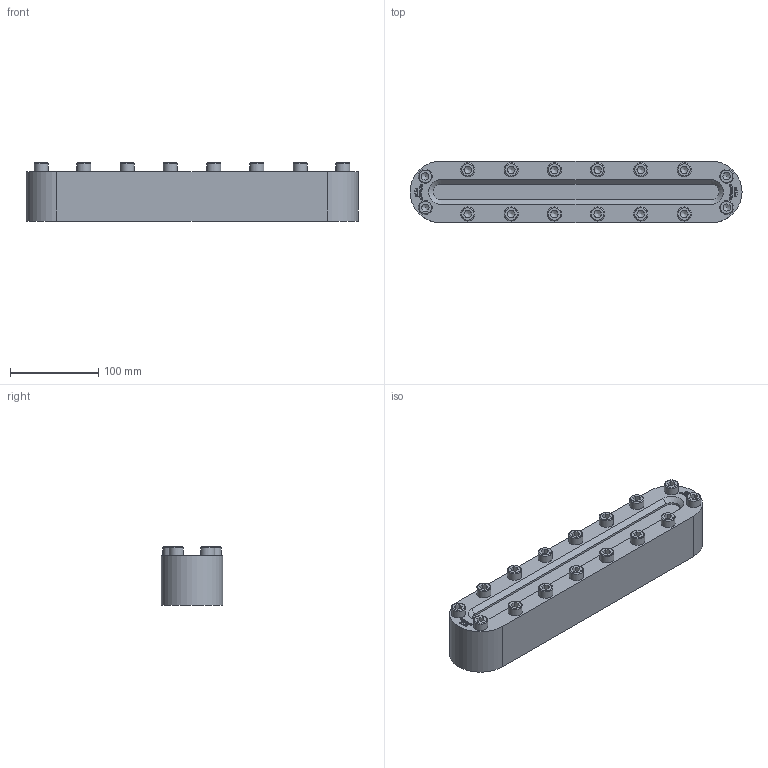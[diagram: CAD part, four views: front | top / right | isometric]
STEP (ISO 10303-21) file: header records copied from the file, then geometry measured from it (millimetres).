
FILE_DESCRIPTION(/* description */ (''),/* implementation_level */ '2;1');
FILE_NAME(/* name */ 'W:\Konstruktion_ACI\337\STEP\ACI-337-376-25.stp',/* time_stamp */ '2022-03-22T07:57:47+01:00',/* author */ ('Travnicek'),/* organization */ (''),/* preprocessor_version */ 'ST-DEVELOPER v16.1',/* originating_system */ 'Autodesk Inventor 2016',/* authorisation */ '');
FILE_SCHEMA (('AUTOMOTIVE_DESIGN { 1 0 10303 214 3 1 1 }'));
Length unit declared in the file: centimetre
Products named in the file (1): 337
Bounding box: 376 x 70 x 65.9 mm (x, y, z)
Volume: 1274193.9 mm3; surface area: 123999.3 mm2
Topology: 1 solids, 1 shells, 600 faces, 1596 edges, 1052 vertices
Faces by surface type: plane 338, bspline 206, cylinder 22, cone 18, torus 16
Full cylindrical faces by diameter (mm): 16 x16
Entity records: 19639 total; most frequent: CARTESIAN_POINT 6039, ORIENTED_EDGE 3064, DIRECTION 1876, EDGE_CURVE 1532, VERTEX_POINT 1036, LINE 962, VECTOR 962, EDGE_LOOP 702
